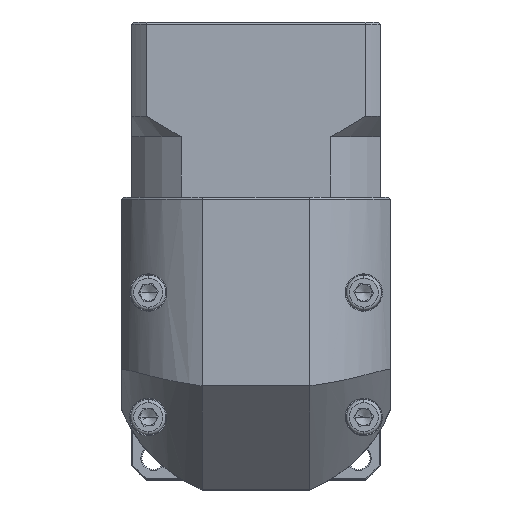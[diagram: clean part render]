
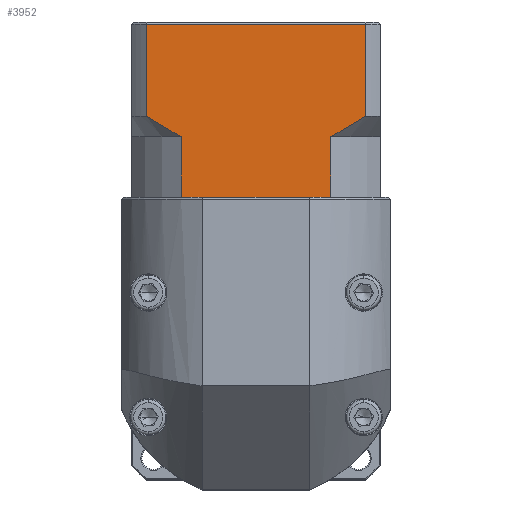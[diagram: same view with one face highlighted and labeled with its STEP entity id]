
A CAD part, top view. The second image highlights one B-rep face of the part: STEP entity #3952.
In plain terms, the highlighted planar face has unit normal (0, 0, 1).
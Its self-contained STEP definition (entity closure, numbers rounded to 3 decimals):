
#132 = LINE ( 'NONE', #55286, #97782 ) ;
#1211 = DIRECTION ( 'NONE',  ( 1., 0., 0. ) ) ;
#1307 = ORIENTED_EDGE ( 'NONE', *, *, #116311, .F. ) ;
#2141 = ORIENTED_EDGE ( 'NONE', *, *, #57475, .F. ) ;
#3952 = ADVANCED_FACE ( 'NONE', ( #125689 ), #8505, .F. ) ;
#8505 = PLANE ( 'NONE',  #43317 ) ;
#9488 = CARTESIAN_POINT ( 'NONE',  ( -31.274, 106.946, 66.299 ) ) ;
#10252 = LINE ( 'NONE', #32099, #32752 ) ;
#13865 = CARTESIAN_POINT ( 'NONE',  ( -67.329, 106.946, 66.299 ) ) ;
#15497 = CARTESIAN_POINT ( 'NONE',  ( -67.329, 106.946, 66.299 ) ) ;
#20159 = CARTESIAN_POINT ( 'NONE',  ( -75.759, 134.146, 66.299 ) ) ;
#23527 = CARTESIAN_POINT ( 'NONE',  ( -22.844, 111.946, 66.299 ) ) ;
#24648 = CARTESIAN_POINT ( 'NONE',  ( -75.759, 111.946, 66.299 ) ) ;
#25359 = LINE ( 'NONE', #130565, #103781 ) ;
#28608 = VECTOR ( 'NONE', #85716, 1000. ) ;
#30453 = CARTESIAN_POINT ( 'NONE',  ( -79.302, 134.646, 66.299 ) ) ;
#32099 = CARTESIAN_POINT ( 'NONE',  ( -79.302, 92.446, 66.299 ) ) ;
#32322 = B_SPLINE_CURVE_WITH_KNOTS ( 'NONE', 3,
 ( #24648, #96193, #97057, #43885, #45166, #45606 ),
 .UNSPECIFIED., .F., .F.,
 ( 4, 2, 4 ),
 ( 0.052, 0.057, 0.062 ),
 .UNSPECIFIED. ) ;
#32752 = VECTOR ( 'NONE', #1211, 1000. ) ;
#34240 = CARTESIAN_POINT ( 'NONE',  ( -31.274, 106.946, 66.299 ) ) ;
#35481 = LINE ( 'NONE', #79313, #112241 ) ;
#39507 = DIRECTION ( 'NONE',  ( 0., -1., 0. ) ) ;
#39632 = EDGE_CURVE ( 'NONE', #82591, #87708, #32322, .T. ) ;
#40673 = DIRECTION ( 'NONE',  ( 0., 1., 0. ) ) ;
#40768 = EDGE_CURVE ( 'NONE', #78735, #113461, #10252, .T. ) ;
#43317 = AXIS2_PLACEMENT_3D ( 'NONE', #30453, #120734, #40673 ) ;
#43885 = CARTESIAN_POINT ( 'NONE',  ( -70.213, 108.498, 66.299 ) ) ;
#44863 = VERTEX_POINT ( 'NONE', #112559 ) ;
#45166 = CARTESIAN_POINT ( 'NONE',  ( -68.781, 107.694, 66.299 ) ) ;
#45606 = CARTESIAN_POINT ( 'NONE',  ( -67.329, 106.946, 66.299 ) ) ;
#46380 = EDGE_CURVE ( 'NONE', #116484, #115409, #25359, .T. ) ;
#52415 = EDGE_CURVE ( 'NONE', #78735, #87708, #95422, .T. ) ;
#55080 = EDGE_CURVE ( 'NONE', #68511, #44863, #121503, .T. ) ;
#55286 = CARTESIAN_POINT ( 'NONE',  ( -75.759, 106.946, 66.299 ) ) ;
#57475 = EDGE_CURVE ( 'NONE', #116484, #44863, #35481, .T. ) ;
#61669 = DIRECTION ( 'NONE',  ( 1., 0., 0. ) ) ;
#63254 = CARTESIAN_POINT ( 'NONE',  ( -24.207, 111.045, 66.299 ) ) ;
#63277 = DIRECTION ( 'NONE',  ( 0., -1., 0. ) ) ;
#63686 = CARTESIAN_POINT ( 'NONE',  ( -25.587, 110.171, 66.299 ) ) ;
#68511 = VERTEX_POINT ( 'NONE', #9488 ) ;
#72054 = ORIENTED_EDGE ( 'NONE', *, *, #113204, .T. ) ;
#73599 = EDGE_CURVE ( 'NONE', #113461, #106750, #89461, .T. ) ;
#74094 = CARTESIAN_POINT ( 'NONE',  ( -79.302, 92.446, 66.299 ) ) ;
#74436 = CARTESIAN_POINT ( 'NONE',  ( -75.759, 111.946, 66.299 ) ) ;
#75131 = ORIENTED_EDGE ( 'NONE', *, *, #55080, .T. ) ;
#78735 = VERTEX_POINT ( 'NONE', #83378 ) ;
#79313 = CARTESIAN_POINT ( 'NONE',  ( -22.844, 106.946, 66.299 ) ) ;
#80531 = CARTESIAN_POINT ( 'NONE',  ( -32.265, 92.446, 66.299 ) ) ;
#82591 = VERTEX_POINT ( 'NONE', #74436 ) ;
#83378 = CARTESIAN_POINT ( 'NONE',  ( -67.329, 92.446, 66.299 ) ) ;
#83405 = CARTESIAN_POINT ( 'NONE',  ( -31.274, 106.946, 66.299 ) ) ;
#84773 = VECTOR ( 'NONE', #61669, 1000. ) ;
#85716 = DIRECTION ( 'NONE',  ( 1., 0., 0. ) ) ;
#86587 = CARTESIAN_POINT ( 'NONE',  ( -66.338, 92.446, 66.299 ) ) ;
#87708 = VERTEX_POINT ( 'NONE', #13865 ) ;
#87727 = ORIENTED_EDGE ( 'NONE', *, *, #39632, .T. ) ;
#88894 = DIRECTION ( 'NONE',  ( -1., 0., 0. ) ) ;
#89461 = LINE ( 'NONE', #124346, #84773 ) ;
#90213 = ORIENTED_EDGE ( 'NONE', *, *, #40768, .T. ) ;
#92572 = EDGE_CURVE ( 'NONE', #68511, #105032, #123886, .T. ) ;
#94982 = VECTOR ( 'NONE', #63277, 1000. ) ;
#95422 = LINE ( 'NONE', #15497, #100187 ) ;
#96116 = EDGE_LOOP ( 'NONE', ( #2141, #131409, #1307, #87727, #99767, #90213, #113697, #72054, #110774, #75131 ) ) ;
#96193 = CARTESIAN_POINT ( 'NONE',  ( -74.399, 111.047, 66.299 ) ) ;
#97057 = CARTESIAN_POINT ( 'NONE',  ( -73.021, 110.173, 66.299 ) ) ;
#97782 = VECTOR ( 'NONE', #106673, 1000. ) ;
#99083 = LINE ( 'NONE', #74094, #28608 ) ;
#99767 = ORIENTED_EDGE ( 'NONE', *, *, #52415, .F. ) ;
#100187 = VECTOR ( 'NONE', #109336, 1000. ) ;
#103781 = VECTOR ( 'NONE', #88894, 1000. ) ;
#105032 = VERTEX_POINT ( 'NONE', #113310 ) ;
#105326 = CARTESIAN_POINT ( 'NONE',  ( -29.817, 107.696, 66.299 ) ) ;
#106673 = DIRECTION ( 'NONE',  ( 0., 1., 0. ) ) ;
#106750 = VERTEX_POINT ( 'NONE', #80531 ) ;
#109336 = DIRECTION ( 'NONE',  ( 0., 1., 0. ) ) ;
#110774 = ORIENTED_EDGE ( 'NONE', *, *, #92572, .F. ) ;
#112241 = VECTOR ( 'NONE', #39507, 1000. ) ;
#112559 = CARTESIAN_POINT ( 'NONE',  ( -22.844, 111.946, 66.299 ) ) ;
#113204 = EDGE_CURVE ( 'NONE', #106750, #105032, #99083, .T. ) ;
#113310 = CARTESIAN_POINT ( 'NONE',  ( -31.274, 92.446, 66.299 ) ) ;
#113461 = VERTEX_POINT ( 'NONE', #86587 ) ;
#113697 = ORIENTED_EDGE ( 'NONE', *, *, #73599, .T. ) ;
#115409 = VERTEX_POINT ( 'NONE', #20159 ) ;
#116311 = EDGE_CURVE ( 'NONE', #82591, #115409, #132, .T. ) ;
#116484 = VERTEX_POINT ( 'NONE', #119607 ) ;
#119607 = CARTESIAN_POINT ( 'NONE',  ( -22.844, 134.146, 66.299 ) ) ;
#120734 = DIRECTION ( 'NONE',  ( 0., 0., -1. ) ) ;
#121503 = B_SPLINE_CURVE_WITH_KNOTS ( 'NONE', 3,
 ( #83405, #105326, #124154, #63686, #63254, #23527 ),
 .UNSPECIFIED., .F., .F.,
 ( 4, 2, 4 ),
 ( 0.1, 0.104, 0.109 ),
 .UNSPECIFIED. ) ;
#123886 = LINE ( 'NONE', #34240, #94982 ) ;
#124154 = CARTESIAN_POINT ( 'NONE',  ( -28.392, 108.497, 66.299 ) ) ;
#124346 = CARTESIAN_POINT ( 'NONE',  ( -79.302, 92.446, 66.299 ) ) ;
#125689 = FACE_OUTER_BOUND ( 'NONE', #96116, .T. ) ;
#130565 = CARTESIAN_POINT ( 'NONE',  ( -79.302, 134.146, 66.299 ) ) ;
#131409 = ORIENTED_EDGE ( 'NONE', *, *, #46380, .T. ) ;
